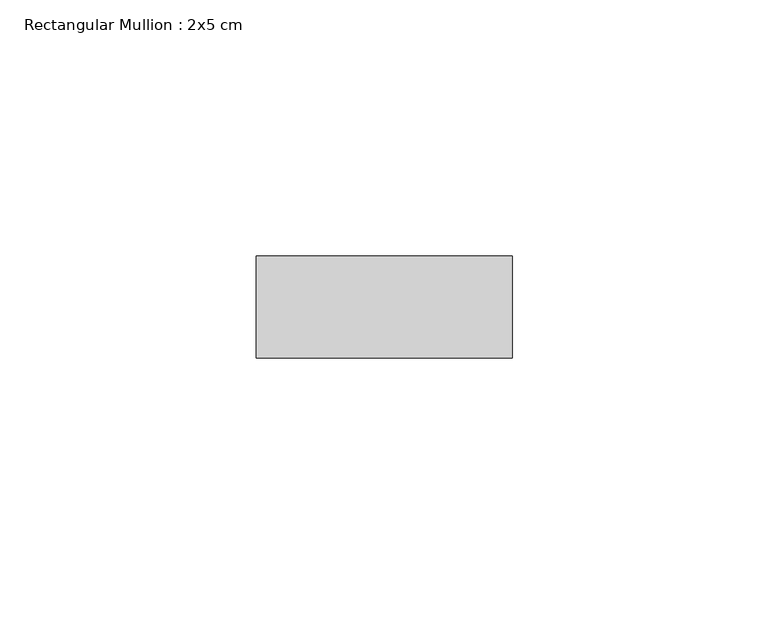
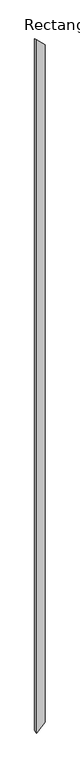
"""IFC4 building model written with IfcOpenShell, lengths in millimetres: member geometry, Rectangular Mullion : 2x5 cm."""

from ifc_helpers import new_model, si_unit, origin, place, context, project, spatial, faceted_brep, source, transform, mapped, element, save


def rectangular_mullion_2x5_cm_c243ac4e(model_context):
    return source(origin(), model_context, "Body", "Brep", [
        faceted_brep([(0.0, 20.0, -5.7469577), (50.0, 20.0, -53.638272), (50.0, 20.0, -4218.4137513), (0.0, 20.0, -4266.3050655), (0.0, 0.0, 0.0), (0.0, 0.0, -4272.0520232), (50.0, 0.0, -47.8913143), (50.0, 0.0, -4224.160709)], [[[0, 1, 2, 3]], [[4, 0, 3, 5]], [[6, 4, 5, 7]], [[1, 6, 7, 2]], [[1, 0, 4, 6]], [[2, 7, 5, 3]]]),
    ])


if __name__ == "__main__":
    model = new_model("IFC4")
    model_context = context("Model", 3, world=origin())
    ifc_project = project(units=[si_unit("LENGTHUNIT", "METRE", prefix="MILLI")], contexts=[model_context])
    site = spatial("IfcSite", under=ifc_project)
    building = spatial("IfcBuilding", under=site)
    placement = place(None, origin())
    rectangular_mullion_2x5_cm_shape = rectangular_mullion_2x5_cm_c243ac4e(model_context)
    element("IfcMember", 1, ObjectType="Rectangular Mullion : 2x5 cm", at=placement, inside=building, context=model_context, shape_type="MappedRepresentation", body=[
        mapped(rectangular_mullion_2x5_cm_shape, transform((0.0, 0.0, 0.0), x_axis=(1.0, 0.0, 0.0), y_axis=(0.0, 1.0, 0.0), z_axis=(0.0, 0.0, 1.0))),
    ])
    save(model, "model.ifc")
